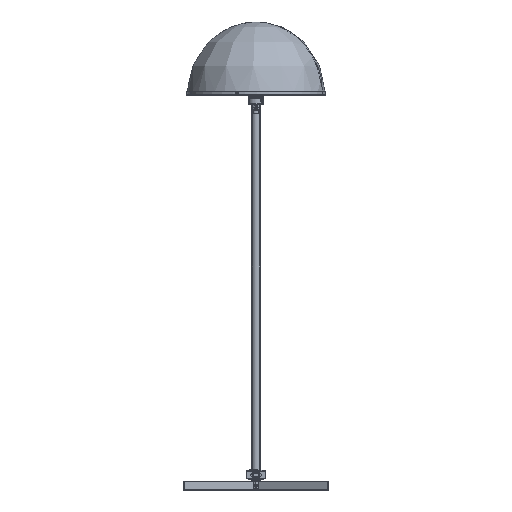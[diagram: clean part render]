
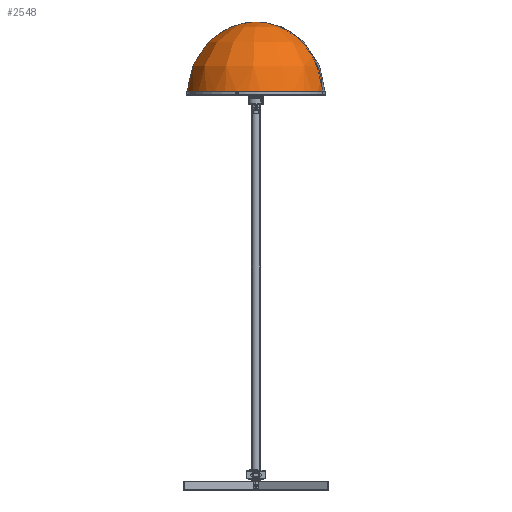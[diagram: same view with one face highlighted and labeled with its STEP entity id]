
A CAD part, left-side view. The second image highlights one B-rep face of the part: STEP entity #2548.
In plain terms, the highlighted free-form (B-spline) face has degree [2, 2] with [9, 5] control points.
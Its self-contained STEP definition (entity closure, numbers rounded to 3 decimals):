
#920=(
BOUNDED_SURFACE()
B_SPLINE_SURFACE(2,2,((#38020,#38021,#38022,#38023,#38024),(#38025,#38026,
#38027,#38028,#38029),(#38030,#38031,#38032,#38033,#38034),(#38035,#38036,
#38037,#38038,#38039),(#38040,#38041,#38042,#38043,#38044),(#38045,#38046,
#38047,#38048,#38049),(#38050,#38051,#38052,#38053,#38054),(#38055,#38056,
#38057,#38058,#38059),(#38060,#38061,#38062,#38063,#38064)),
 .UNSPECIFIED.,.F.,.F.,.F.)
B_SPLINE_SURFACE_WITH_KNOTS((3,2,2,2,3),(3,2,3),(0.,0.884,1.767,
2.651,3.534),(0.,1.571,3.142),
 .UNSPECIFIED.)
GEOMETRIC_REPRESENTATION_ITEM()
RATIONAL_B_SPLINE_SURFACE(((1.,0.707,1.,0.707,1.),
(0.904,0.639,0.904,0.639,
0.904),(1.,0.707,1.,0.707,1.),(0.904,
0.639,0.904,0.639,0.904),
(1.,0.707,1.,0.707,1.),(0.904,0.639,
0.904,0.639,0.904),(1.,0.707,
1.,0.707,1.),(0.904,0.639,0.904,
0.639,0.904),(1.,0.707,1.,0.707,
1.)))
REPRESENTATION_ITEM('')
SURFACE()
);
#2548=ADVANCED_FACE('',(#3653),#920,.T.);
#3653=FACE_OUTER_BOUND('',#4772,.T.);
#4772=EDGE_LOOP('',(#7414,#7415,#7416));
#7414=ORIENTED_EDGE('',*,*,#12409,.T.);
#7415=ORIENTED_EDGE('',*,*,#12408,.T.);
#7416=ORIENTED_EDGE('',*,*,#12407,.T.);
#12407=EDGE_CURVE('',#20299,#20298,#14463,.T.);
#12408=EDGE_CURVE('',#20300,#20299,#14464,.T.);
#12409=EDGE_CURVE('',#20298,#20300,#14465,.T.);
#14463=TRIMMED_CURVE($,#15650,(#38072),(#38073),.T.,.CARTESIAN.);
#14464=TRIMMED_CURVE($,#15651,(#38075),(#38076),.T.,.CARTESIAN.);
#14465=TRIMMED_CURVE($,#15652,(#38078),(#38079),.T.,.CARTESIAN.);
#15650=CIRCLE('',#22726,210.);
#15651=CIRCLE('',#22727,210.);
#15652=CIRCLE('',#22728,210.);
#20298=VERTEX_POINT('',#38065);
#20299=VERTEX_POINT('',#38066);
#20300=VERTEX_POINT('',#38067);
#22726=AXIS2_PLACEMENT_3D($,#38071,#25148,#25149);
#22727=AXIS2_PLACEMENT_3D($,#38074,#25150,#25151);
#22728=AXIS2_PLACEMENT_3D($,#38077,#25152,#25153);
#25148=DIRECTION('',(0.959,-0.282,0.));
#25149=DIRECTION('',(0.,0.,1.));
#25150=DIRECTION('',(0.959,-0.282,0.));
#25151=DIRECTION('',(0.282,0.959,0.));
#25152=DIRECTION('',(0.,0.,-1.));
#25153=DIRECTION('',(-0.282,-0.959,0.));
#38020=CARTESIAN_POINT('',(121.895,221.129,1002.));
#38021=CARTESIAN_POINT('',(62.615,19.669,1002.));
#38022=CARTESIAN_POINT('',(62.615,19.669,1212.));
#38023=CARTESIAN_POINT('',(62.615,19.669,1422.));
#38024=CARTESIAN_POINT('',(121.895,221.129,1422.));
#38025=CARTESIAN_POINT('',(121.895,221.129,1002.));
#38026=CARTESIAN_POINT('',(-32.668,47.707,1002.));
#38027=CARTESIAN_POINT('',(-32.668,47.707,1212.));
#38028=CARTESIAN_POINT('',(-32.668,47.707,1422.));
#38029=CARTESIAN_POINT('',(121.895,221.129,1422.));
#38030=CARTESIAN_POINT('',(121.895,221.129,1002.));
#38031=CARTESIAN_POINT('',(-71.442,139.149,1002.));
#38032=CARTESIAN_POINT('',(-71.442,139.149,1212.));
#38033=CARTESIAN_POINT('',(-71.442,139.149,1422.));
#38034=CARTESIAN_POINT('',(121.895,221.129,1422.));
#38035=CARTESIAN_POINT('',(121.895,221.129,1002.));
#38036=CARTESIAN_POINT('',(-110.216,230.59,1002.));
#38037=CARTESIAN_POINT('',(-110.216,230.59,1212.));
#38038=CARTESIAN_POINT('',(-110.216,230.59,1422.));
#38039=CARTESIAN_POINT('',(121.895,221.129,1422.));
#38040=CARTESIAN_POINT('',(121.895,221.129,1002.));
#38041=CARTESIAN_POINT('',(-64.128,318.573,1002.));
#38042=CARTESIAN_POINT('',(-64.128,318.573,1212.));
#38043=CARTESIAN_POINT('',(-64.128,318.573,1422.));
#38044=CARTESIAN_POINT('',(121.895,221.129,1422.));
#38045=CARTESIAN_POINT('',(121.895,221.129,1002.));
#38046=CARTESIAN_POINT('',(-18.041,406.555,1002.));
#38047=CARTESIAN_POINT('',(-18.041,406.555,1212.));
#38048=CARTESIAN_POINT('',(-18.041,406.555,1422.));
#38049=CARTESIAN_POINT('',(121.895,221.129,1422.));
#38050=CARTESIAN_POINT('',(121.895,221.129,1002.));
#38051=CARTESIAN_POINT('',(79.209,426.744,1002.));
#38052=CARTESIAN_POINT('',(79.209,426.744,1212.));
#38053=CARTESIAN_POINT('',(79.209,426.744,1422.));
#38054=CARTESIAN_POINT('',(121.895,221.129,1422.));
#38055=CARTESIAN_POINT('',(121.895,221.129,1002.));
#38056=CARTESIAN_POINT('',(176.458,446.934,1002.));
#38057=CARTESIAN_POINT('',(176.458,446.934,1212.));
#38058=CARTESIAN_POINT('',(176.458,446.934,1422.));
#38059=CARTESIAN_POINT('',(121.895,221.129,1422.));
#38060=CARTESIAN_POINT('',(121.895,221.129,1002.));
#38061=CARTESIAN_POINT('',(253.758,384.567,1002.));
#38062=CARTESIAN_POINT('',(253.758,384.567,1212.));
#38063=CARTESIAN_POINT('',(253.758,384.567,1422.));
#38064=CARTESIAN_POINT('',(121.895,221.129,1422.));
#38065=CARTESIAN_POINT('',(62.615,19.669,1212.));
#38066=CARTESIAN_POINT('',(121.895,221.129,1422.));
#38067=CARTESIAN_POINT('',(181.176,422.588,1212.));
#38071=CARTESIAN_POINT('',(121.895,221.129,1212.));
#38072=CARTESIAN_POINT('',(121.895,221.129,1422.));
#38073=CARTESIAN_POINT('',(62.615,19.669,1212.));
#38074=CARTESIAN_POINT('',(121.895,221.129,1212.));
#38075=CARTESIAN_POINT('',(181.176,422.588,1212.));
#38076=CARTESIAN_POINT('',(121.895,221.129,1422.));
#38077=CARTESIAN_POINT('',(121.895,221.129,1212.));
#38078=CARTESIAN_POINT('',(62.615,19.669,1212.));
#38079=CARTESIAN_POINT('',(181.176,422.588,1212.));
